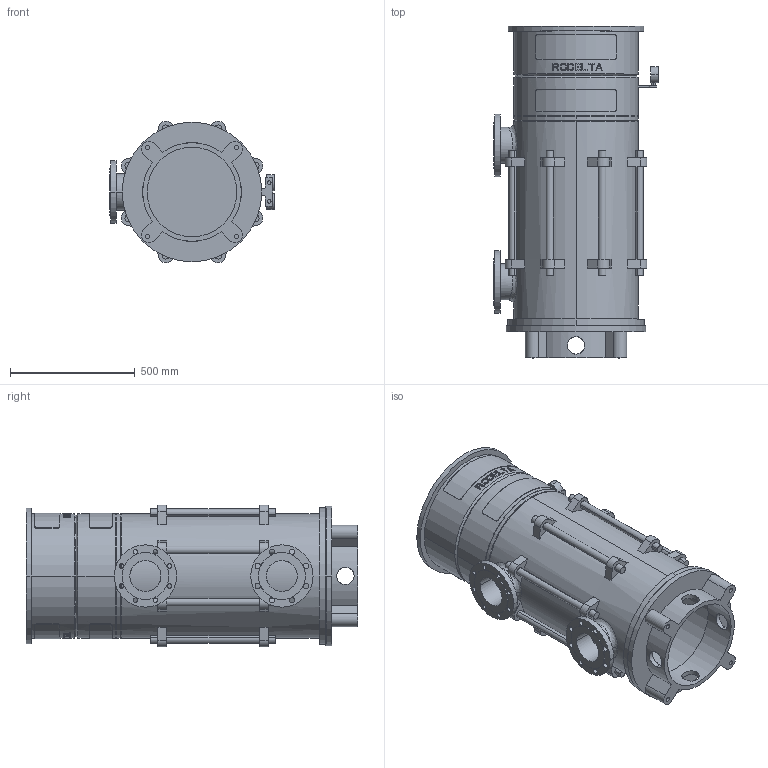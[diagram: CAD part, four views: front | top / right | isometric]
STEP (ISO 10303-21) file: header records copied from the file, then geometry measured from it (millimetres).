
FILE_DESCRIPTION((''),'2;1');
FILE_NAME('LS5_4TR_0GR_ABOVE_30KW','2023-08-08T',('Lyritlocal'),(''),'PRO/ENGINEER BY PARAMETRIC TECHNOLOGY CORPORATION, 2016360','PRO/ENGINEER BY PARAMETRIC TECHNOLOGY CORPORATION, 2016360','');
FILE_SCHEMA(('CONFIG_CONTROL_DESIGN'));
Length unit declared in the file: millimetre
Products named in the file (1): LS5_4TR_0GR_ABOVE_30KW
Bounding box: 660 x 1332 x 568.08 mm (x, y, z)
Volume: 41547251.4 mm3; surface area: 5975805.4 mm2
Topology: 3 solids, 7 shells, 672 faces, 1747 edges, 1158 vertices
Faces by surface type: plane 414, cylinder 242, cone 12, bspline 4
Entity records: 22036 total; most frequent: CARTESIAN_POINT 5592, ORIENTED_EDGE 3478, DIRECTION 3269, EDGE_CURVE 1747, AXIS2_PLACEMENT_3D 1241, VERTEX_POINT 1158, EDGE_LOOP 809, VECTOR 787
